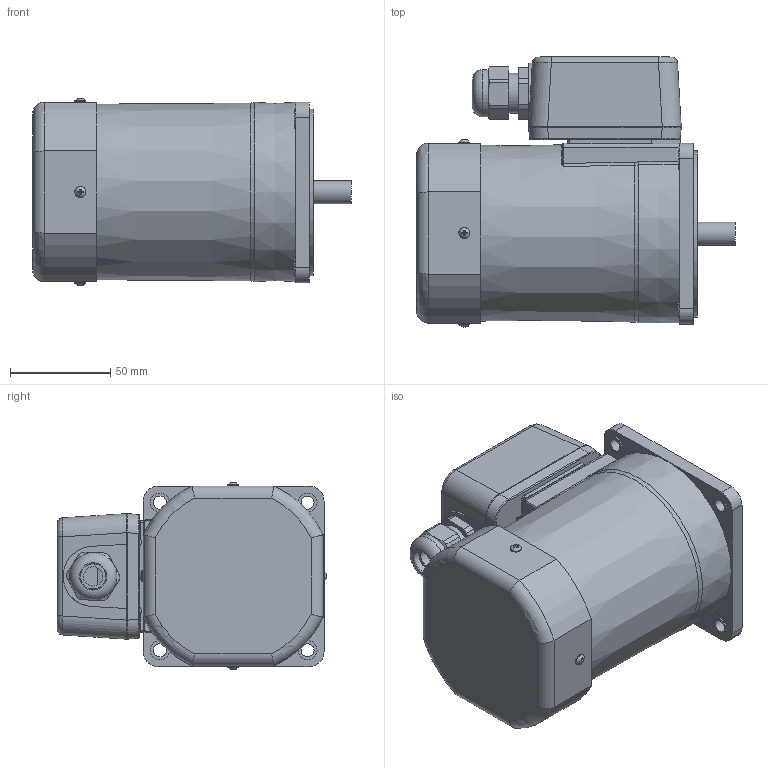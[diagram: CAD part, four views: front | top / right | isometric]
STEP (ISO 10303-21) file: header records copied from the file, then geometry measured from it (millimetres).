
FILE_DESCRIPTION((''),'2;1');
FILE_NAME('D:\STP파일\90W MOTOR\T BOX TYPE\S9I90G-T.stp','2013-05-20T18:49:05',('leebh'),(''),'Autodesk Inventor 2011','Autodesk Inventor 2011','');
FILE_SCHEMA(('AUTOMOTIVE_DESIGN { 1 0 10303 214 1 1 1 1 }'));
Length unit declared in the file: millimetre
Products named in the file (1): S9I90G-T1
Bounding box: 158.8 x 134.44 x 93.49 mm (x, y, z)
Volume: 1085771 mm3; surface area: 82933.3 mm2
Topology: 1 solids, 13 shells, 471 faces, 1154 edges, 734 vertices
Faces by surface type: plane 251, cylinder 124, bspline 55, torus 33, cone 8
Full cylindrical faces by diameter (mm): 2.55 x2, 3 x4, 3.5 x4, 5.6 x8, 6.3 x4, 6.5 x4, 9.5 x4, 11.5 x1, 12.5 x1, 15 x1, 20 x2, 21 x1, 23.6 x1, 40 x1, 83 x1
Entity records: 15840 total; most frequent: CARTESIAN_POINT 5006, ORIENTED_EDGE 2126, DIRECTION 2024, EDGE_CURVE 1063, AXIS2_PLACEMENT_3D 728, VERTEX_POINT 718, EDGE_LOOP 589, VECTOR 568
